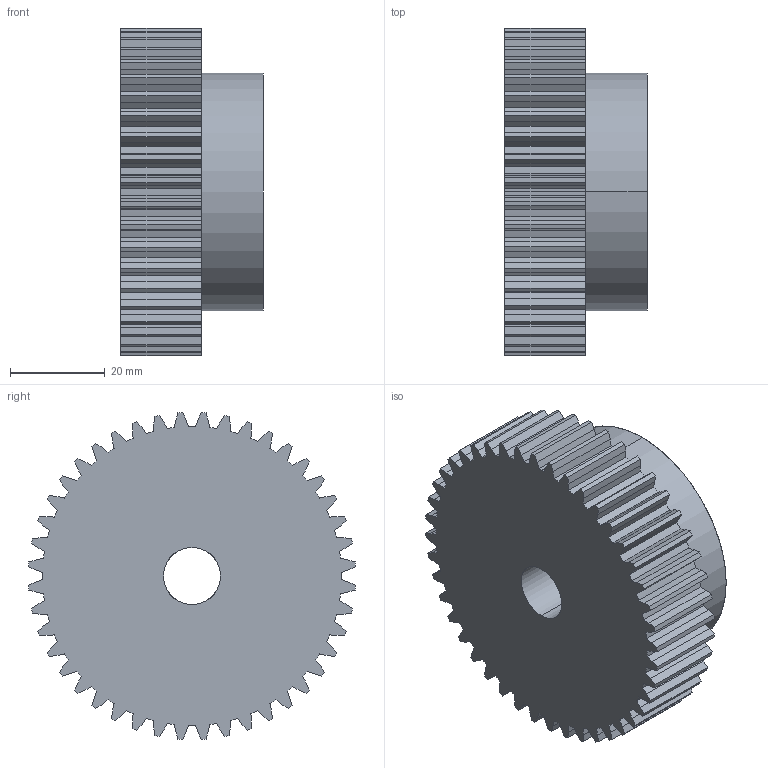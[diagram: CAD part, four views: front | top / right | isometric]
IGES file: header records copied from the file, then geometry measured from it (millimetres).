
Start section: SolidWorks IGES file using analytic representation for surfaces
Global section: file name: C:\Users\Honza\Desktop\Matis (Hotove)\Èelní ozubená kola\PM\MODUL 1,5\PM 27044.IGS; native system: SolidWorks 2010; preprocessor: SolidWorks 2010; author: Honza; date: 130924.122229; units: millimetre
Bounding box: 30 x 68.89 x 68.89 mm (x, y, z)
Surface area: 16375.7 mm2 (no closed solid volume)
Topology: 0 solids, 0 shells, 272 faces, 1798 edges, 1798 vertices
Faces by surface type: bspline 179, revolution 93
